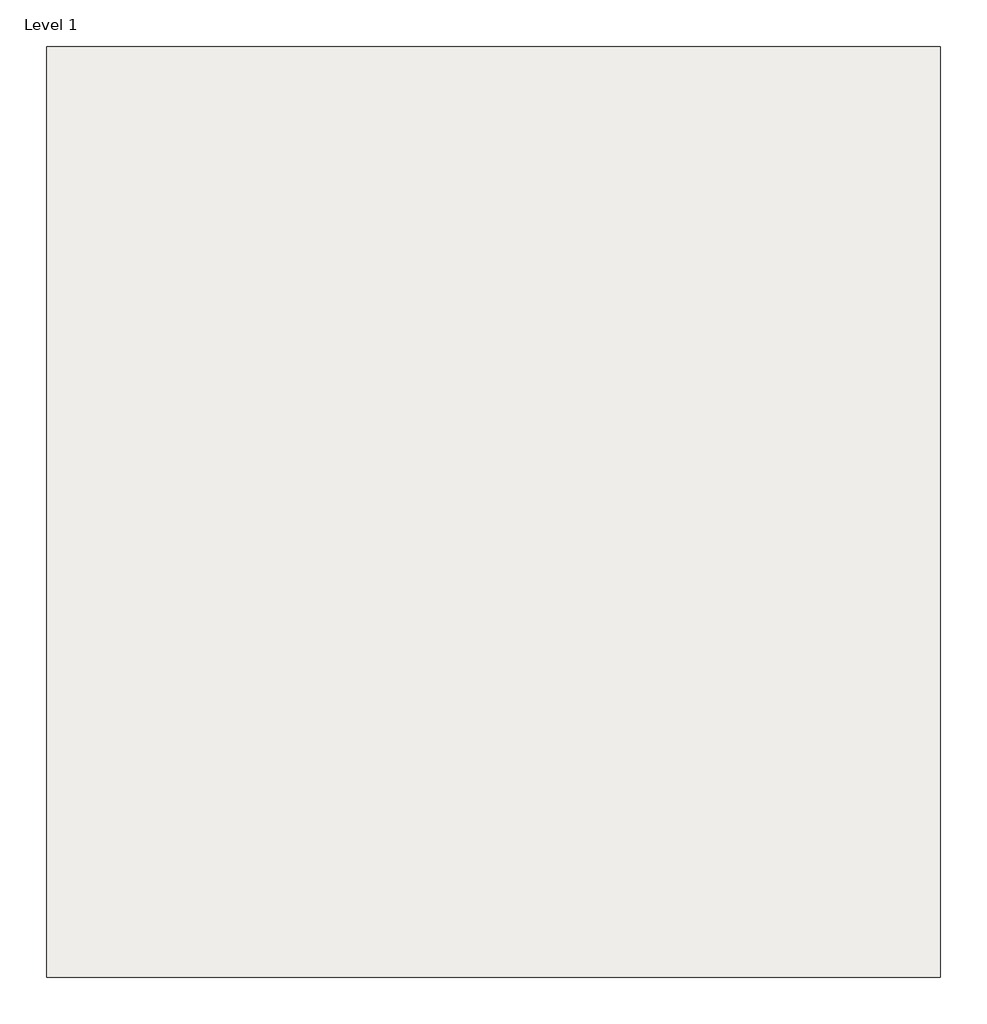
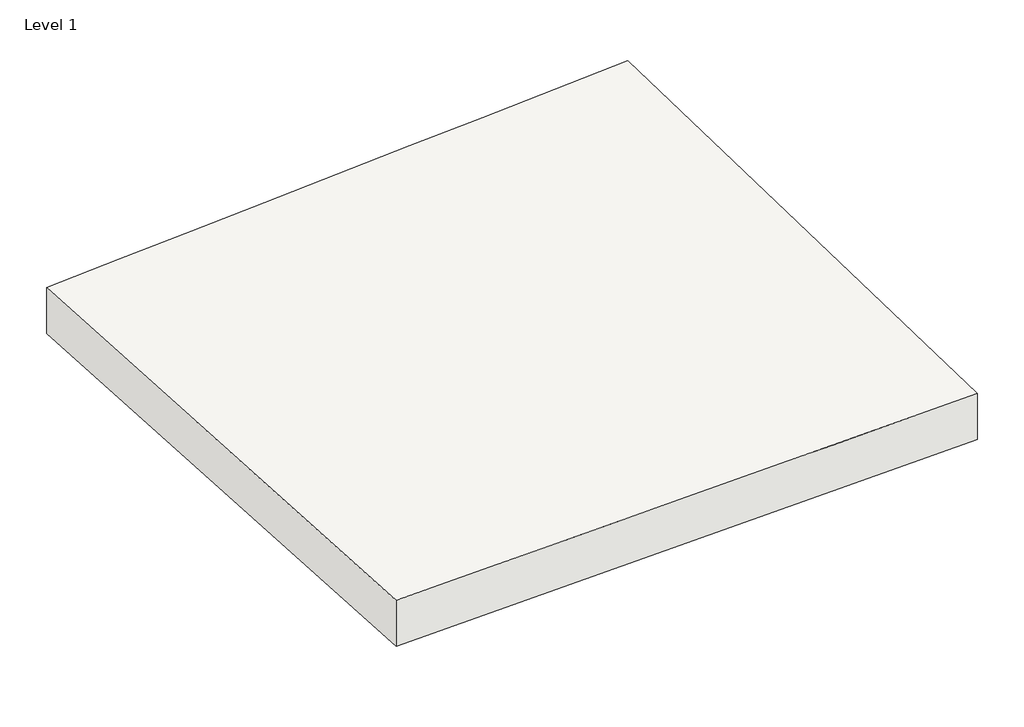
# One storey: 1 slab.
"""IFC4 building model written with IfcOpenShell, lengths in millimetres."""

from ifc_helpers import new_model, si_unit, frame, origin, place, context, project, spatial, element, save
from ifc_brep_helpers import plane_surface, spline_surface, advanced_brep

model = new_model("IFC4")

# Units and contexts
model_context = context("Model", 3, world=origin())
ifc_project = project(units=[si_unit("LENGTHUNIT", "METRE", prefix="MILLI")], contexts=[model_context])

# Site, building, storey
site = spatial("IfcSite", under=ifc_project)
building = spatial("IfcBuilding", under=site)
storey = spatial("IfcBuildingStorey", under=building, Name="Level 1", Elevation=0.0)

# Slab
placement = place(None, origin())
element("IfcSlab", 1, ObjectType="Generic - 12\"", at=placement, inside=storey, context=model_context, shape_type="AdvancedBrep", body=[
    advanced_brep(
    [(-9645.8273121, 7462.5065309, -863.6), (-9645.8273121, 7462.5065309, -558.8), (-9645.8273121, 3652.5065309, -463.1541166), (-9645.8273121, 3652.5065309, -767.9541166), (-13303.4273121, 3652.5065309, -558.8), (-13303.4273121, 3652.5065309, -863.6), (-13303.4273121, 7462.5065309, -787.4), (-13303.4273121, 7462.5065309, -1092.2)],
    [
        (0, 1),
        (1, 2),
        (2, 3),
        (3, 0),
        (2, 4),
        (4, 5),
        (5, 3),
        (4, 6),
        (6, 7),
        (7, 5),
        (6, 1),
        (0, 7),
    ],
    [
        plane_surface(frame((-9645.8273121, 7462.5065309, -304.8), z_axis=(1.0, 0.0, 0.0), x_axis=(0.0, 0.0, 1.0))),
        plane_surface(frame((-9645.8273121, 3652.5065309, -304.8), z_axis=(0.0, -1.0, 0.0), x_axis=(0.0, 0.0, 1.0))),
        plane_surface(frame((-13303.4273121, 3652.5065309, -304.8), z_axis=(-1.0, 0.0, 0.0), x_axis=(0.0, 0.0, 1.0))),
        plane_surface(frame((-13303.4273121, 7462.5065309, -304.8), z_axis=(0.0, 1.0, 0.0), x_axis=(0.0, 0.0, 1.0))),
        spline_surface(1, 1, [[(-13303.4273121, 3652.5065309, -558.8), (-13303.4273121, 7462.5065309, -787.4)], [(-9645.8273121, 3652.5065309, -463.1541166), (-9645.8273121, 7462.5065309, -558.8)]], [2, 2], [2, 2], [0.0, 1.0], [0.0, 1.0]),
        spline_surface(1, 1, [[(-13303.4273121, 3652.5065309, -863.6), (-9645.8273121, 3652.5065309, -767.9541166)], [(-13303.4273121, 7462.5065309, -1092.2), (-9645.8273121, 7462.5065309, -863.6)]], [2, 2], [2, 2], [0.0, 1.0], [0.0, 1.0]),
    ],
    [
        (0, [[1, 2, 3, 4]]),
        (1, [[-3, 5, 6, 7]]),
        (2, [[-6, 8, 9, 10]]),
        (3, [[-9, 11, -1, 12]]),
        (4, [[-8, -5, -2, -11]]),
        (5, [[-12, -4, -7, -10]]),
    ],
),
])

save(model, "model.ifc")
